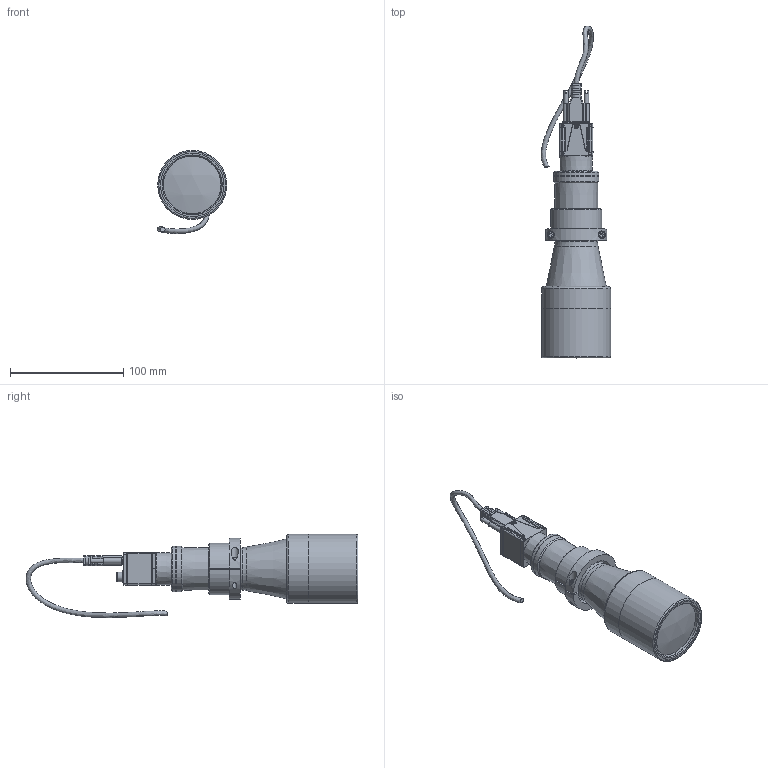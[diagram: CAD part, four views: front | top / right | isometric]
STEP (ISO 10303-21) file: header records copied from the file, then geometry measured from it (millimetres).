
FILE_DESCRIPTION(/* description */ (''),/* implementation_level */ '2;1');
FILE_NAME(/* name */ '\\SERVEUR-09\Entreprise\Bureau-Technique\Produits Web\videos\optiques\MA735-002-052.stp',/* time_stamp */ '2018-10-01T08:38:56+02:00',/* author */ ('ms'),/* organization */ ('Marcel Aubert'),/* preprocessor_version */ 'ST-DEVELOPER v17',/* originating_system */ 'Autodesk Inventor 2019',/* authorisation */ '');
FILE_SCHEMA (('AUTOMOTIVE_DESIGN { 1 0 10303 214 3 1 1 }'));
Length unit declared in the file: millimetre
Products named in the file (1): Pièce1
Bounding box: 61.45 x 293.3 x 73.52 mm (x, y, z)
Volume: 364826.6 mm3; surface area: 55009.5 mm2
Topology: 2 solids, 8 shells, 916 faces, 2498 edges, 1642 vertices
Faces by surface type: plane 565, cylinder 228, cone 50, bspline 36, torus 34, sphere 3
Full cylindrical faces by diameter (mm): 0.4 x8, 1.6 x2, 2.459 x2, 2.5 x4, 3 x4, 3.2 x3, 3.5 x2, 3.9 x2, 5.5 x2, 6.5 x2, 6.8 x1, 8.5 x1, 8.6 x3, 10 x1, 10.6 x1, 22.5 x1, 24.8 x1, 26 x1, 39.8 x1, 40 x2, 51 x1, 56 x1, 61 x2
Entity records: 43894 total; most frequent: CARTESIAN_POINT 19378, ORIENTED_EDGE 4978, DIRECTION 4854, EDGE_CURVE 2489, VERTEX_POINT 1642, LINE 1636, VECTOR 1636, AXIS2_PLACEMENT_3D 1609
